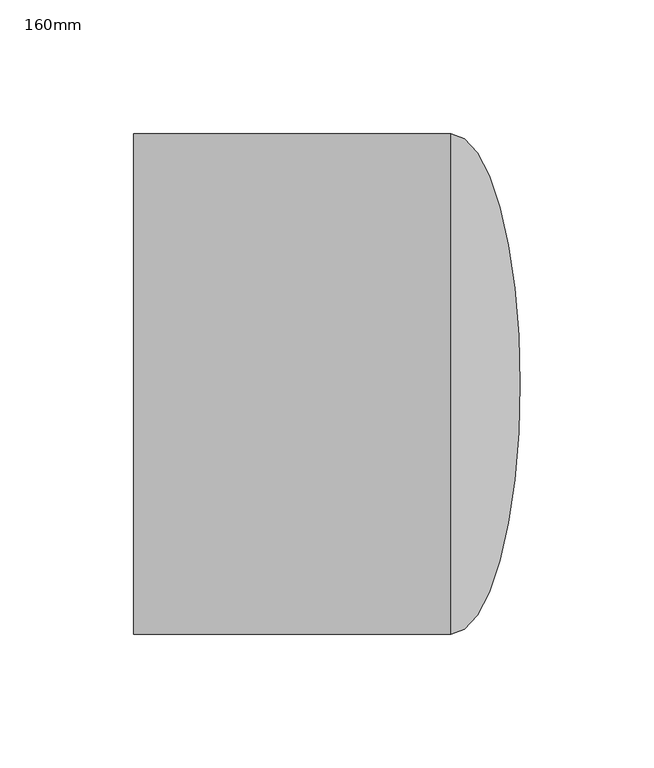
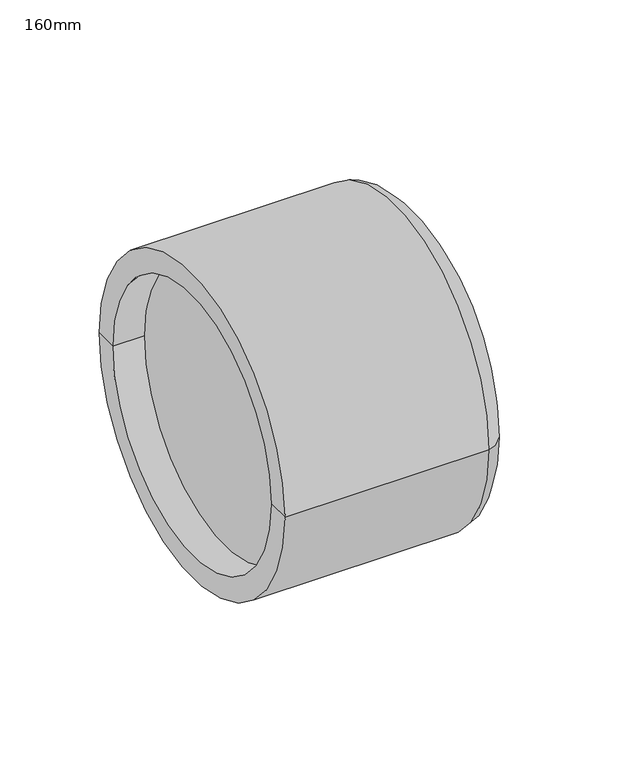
"""IFC4 building model written with IfcOpenShell, lengths in millimetres: pipe fitting geometry, PipeFitting_HTA_CPVC_Caps : 160mm."""

from ifc_helpers import new_model, si_unit, point, frame, origin, place, context, project, spatial, polyline, circle_curve, ellipse_curve, trimmed, source, transform, mapped, element, save
from ifc_brep_helpers import plane_surface, cylinder_surface, revolved_surface, advanced_brep


def pipe_fitting_160mm_23f7f33e(model_context):
    return source(origin(), model_context, "Body", "AdvancedBrep", [
        advanced_brep(
        [(46.375, -93.5, 0.0), (46.375, 93.5, 0.0), (72.25, 0.0, 0.0), (-72.25, -93.5, 0.0), (-72.25, 93.5, 0.0), (-72.25, -80.0, 0.0), (-72.25, 80.0, 0.0), (-53.6796875, -80.0, 0.0), (-53.6796875, 80.0, 0.0)],
        [
            (0, 1, circle_curve(frame((46.375, 0.0, 0.0), z_axis=(1.0, 0.0, 0.0), x_axis=(0.0, 1.0, 0.0)), 93.5)),
            (1, 2, ellipse_curve(frame((46.375, 0.0, 0.0), z_axis=(0.0, 0.0, -1.0), x_axis=(0.0, 1.0, 0.0)), 93.5, 25.875)),
            (2, 0, ellipse_curve(frame((46.375, 0.0, 0.0), z_axis=(0.0, 0.0, -1.0), x_axis=(0.0, -1.0, 0.0)), 93.5, 25.875)),
            (1, 0, circle_curve(frame((46.375, 0.0, 0.0), z_axis=(1.0, 0.0, 0.0), x_axis=(0.0, 1.0, 0.0)), 93.5)),
            (0, 3),
            (3, 4, circle_curve(frame((-72.25, 0.0, 0.0), z_axis=(1.0, 0.0, 0.0), x_axis=(0.0, 1.0, 0.0)), 93.5)),
            (4, 1),
            (4, 3, circle_curve(frame((-72.25, 0.0, 0.0), z_axis=(1.0, 0.0, 0.0), x_axis=(0.0, 1.0, 0.0)), 93.5)),
            (3, 5),
            (5, 6, circle_curve(frame((-72.25, 0.0, 0.0), z_axis=(1.0, 0.0, 0.0), x_axis=(0.0, 1.0, 0.0)), 80.0)),
            (6, 4),
            (6, 5, circle_curve(frame((-72.25, 0.0, 0.0), z_axis=(1.0, 0.0, 0.0), x_axis=(0.0, 1.0, 0.0)), 80.0)),
            (7, 8, circle_curve(frame((-53.6796875, 0.0, 0.0), z_axis=(-1.0, 0.0, 0.0), x_axis=(0.0, 1.0, 0.0)), 80.0)),
            (8, 7, circle_curve(frame((-53.6796875, 0.0, 0.0), z_axis=(-1.0, 0.0, 0.0), x_axis=(0.0, 1.0, 0.0)), 80.0)),
            (8, 6),
            (5, 7),
        ],
        [
            revolved_surface(trimmed(ellipse_curve(frame((46.375, 0.0, 0.0), z_axis=(0.0, 0.0, 1.0), x_axis=(0.0, 1.0, 0.0)), 93.5, 25.875), [point((72.25, 0.0, 0.0))], [point((46.375, 93.5, 0.0))], True, "CARTESIAN"), (-380.0, 0.0, 0.0), (-1.0, 0.0, 0.0)),
            cylinder_surface(frame((-380.0, 0.0, 0.0), z_axis=(-1.0, 0.0, 0.0), x_axis=(0.0, 1.0, 0.0)), 93.5),
            plane_surface(frame((-72.25, 0.0, 0.0), z_axis=(-1.0, 0.0, 0.0), x_axis=(0.0, 1.0, 0.0))),
            plane_surface(frame((-53.6796875, 80.0, 0.0), z_axis=(-1.0, 0.0, 0.0), x_axis=(0.0, 0.0, 1.0))),
            revolved_surface(polyline([(-53.6796875, 80.0, 0.0), (-72.25, 80.0, 0.0)]), (-72.25, 0.0, 0.0), (1.0, 0.0, 0.0)),
        ],
        [
            (0, [[1, 2, 3]]),
            (0, [[-2, 4, -3]]),
            (1, [[-1, 5, 6, 7]]),
            (1, [[-4, -7, 8, -5]]),
            (2, [[-6, 9, 10, 11]]),
            (2, [[-8, -11, 12, -9]]),
            (3, [[13, 14]]),
            (4, [[-14, 15, -10, 16]]),
            (4, [[-13, -16, -12, -15]]),
        ],
    ),
    ])


if __name__ == "__main__":
    model = new_model("IFC4")
    model_context = context("Model", 3, world=origin())
    ifc_project = project(units=[si_unit("LENGTHUNIT", "METRE", prefix="MILLI")], contexts=[model_context])
    site = spatial("IfcSite", under=ifc_project)
    building = spatial("IfcBuilding", under=site)
    placement = place(None, origin())
    pipe_fitting_160mm_shape = pipe_fitting_160mm_23f7f33e(model_context)
    element("IfcPipeFitting", 1, ObjectType="PipeFitting_HTA_CPVC_Caps : 160mm", at=placement, inside=building, context=model_context, shape_type="MappedRepresentation", body=[
        mapped(pipe_fitting_160mm_shape, transform((0.0, 0.0, 0.0), x_axis=(1.0, 0.0, 0.0), y_axis=(0.0, 1.0, 0.0), z_axis=(0.0, 0.0, 1.0))),
    ])
    save(model, "model.ifc")
